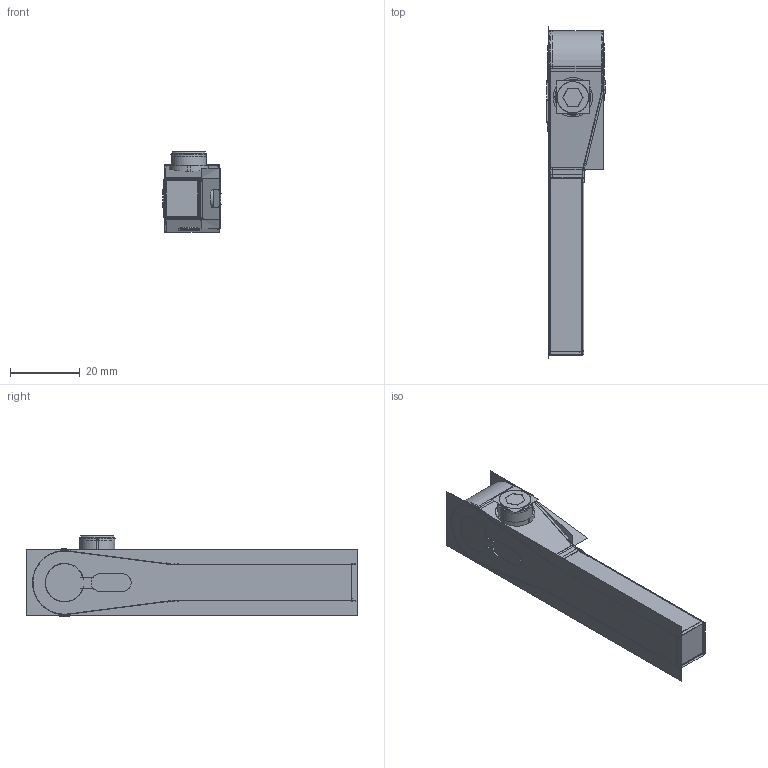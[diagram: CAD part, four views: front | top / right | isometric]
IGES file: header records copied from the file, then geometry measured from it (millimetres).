
Start section:  PTC IGES file: cal-22.igs
Global section: file name: cal-22.igs; native system: Pro/ENGINEER by Parametric Technology Corporation; preprocessor: 2010040; author: chad.steele; organization: Unknown; date: 20110823.083922; units: inch
Bounding box: 16.64 x 94.84 x 23.08 mm (x, y, z)
Surface area: 13623.4 mm2 (no closed solid volume)
Topology: 0 solids, 0 shells, 162 faces, 1226 edges, 1332 vertices
Faces by surface type: revolution 106, bspline 56
